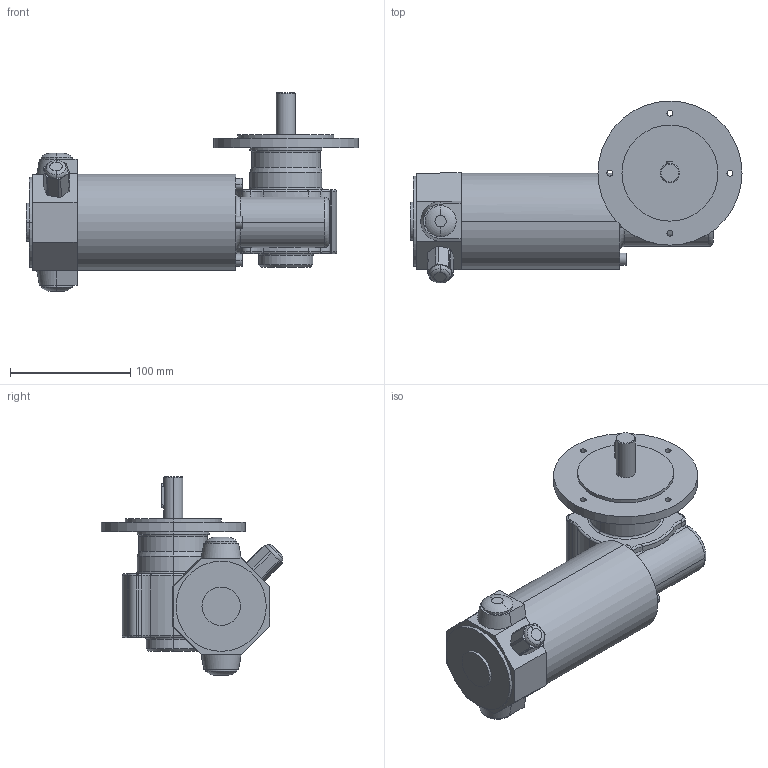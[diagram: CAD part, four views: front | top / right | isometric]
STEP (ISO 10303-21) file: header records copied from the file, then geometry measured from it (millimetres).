
FILE_DESCRIPTION(('OneSpaceDesigner STEP Export'),'2;1');
FILE_NAME('EPG13_GF146.stp','2008-07-15T10:18:18',(''),(''),'OneSpace Designer STEP processor (Jan. 2003) for AP214(CD)(Solid Model)','OneSpace Designer 12.01D 09-Jul-2004 (C) CoCreate Software GmbH','');
FILE_SCHEMA(('AUTOMOTIVE_DESIGN_CC2 {1 2 10303 214 -1 1 5 1}'));
Length unit declared in the file: millimetre
Products named in the file (2): EPG13_GF146
Assembly tree (1 placements, depth 2):
  EPG13_GF146
    EPG13_GF146
Bounding box: 276.5 x 151.39 x 165.5 mm (x, y, z)
Volume: 1519451.1 mm3; surface area: 116843.3 mm2
Topology: 1 solids, 1 shells, 219 faces, 521 edges, 320 vertices
Faces by surface type: cylinder 89, torus 68, plane 47, cone 12, bspline 3
Entity records: 9096 total; most frequent: CARTESIAN_POINT 4427, ORIENTED_EDGE 1042, DIRECTION 880, EDGE_CURVE 521, AXIS2_PLACEMENT_3D 358, VERTEX_POINT 320, EDGE_LOOP 243, FACE_OUTER_BOUND 219
